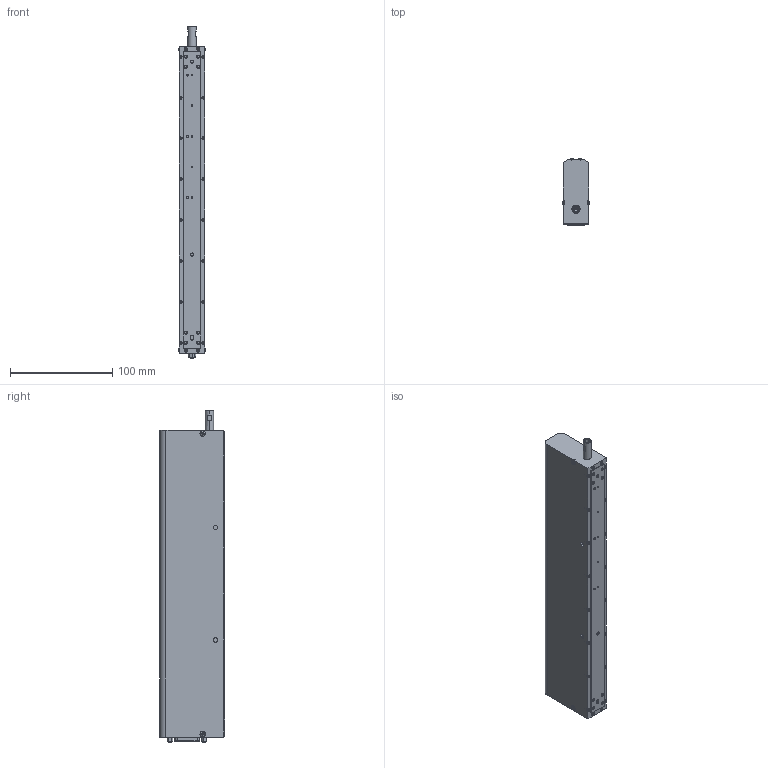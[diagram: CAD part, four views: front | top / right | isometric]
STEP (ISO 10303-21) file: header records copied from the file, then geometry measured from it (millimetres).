
FILE_DESCRIPTION (( 'STEP AP203' ), '1' );
FILE_NAME ('LDL25C-100-YY-6F.STEP', '2021-08-31T16:20:44', ( '' ), ( '' ), 'SwSTEP 2.0', 'SolidWorks 2020', '' );
FILE_SCHEMA (( 'CONFIG_CONTROL_DESIGN' ));
Products named in the file (1): LDL25C-100-YY-6F
Bounding box: 25.86 x 64.1 x 324.76 mm (x, y, z)
Volume: 477810.8 mm3; surface area: 58986.8 mm2
Topology: 1 solids, 43 shells, 2395 faces, 6574 edges, 4299 vertices
Faces by surface type: plane 727, cone 547, bspline 426, cylinder 407, torus 280, sphere 8
Entity records: 95316 total; most frequent: CARTESIAN_POINT 39485, ORIENTED_EDGE 13112, DIRECTION 9613, EDGE_CURVE 6556, VERTEX_POINT 4299, AXIS2_PLACEMENT_3D 3809, B_SPLINE_CURVE_WITH_KNOTS 2662, EDGE_LOOP 2607
